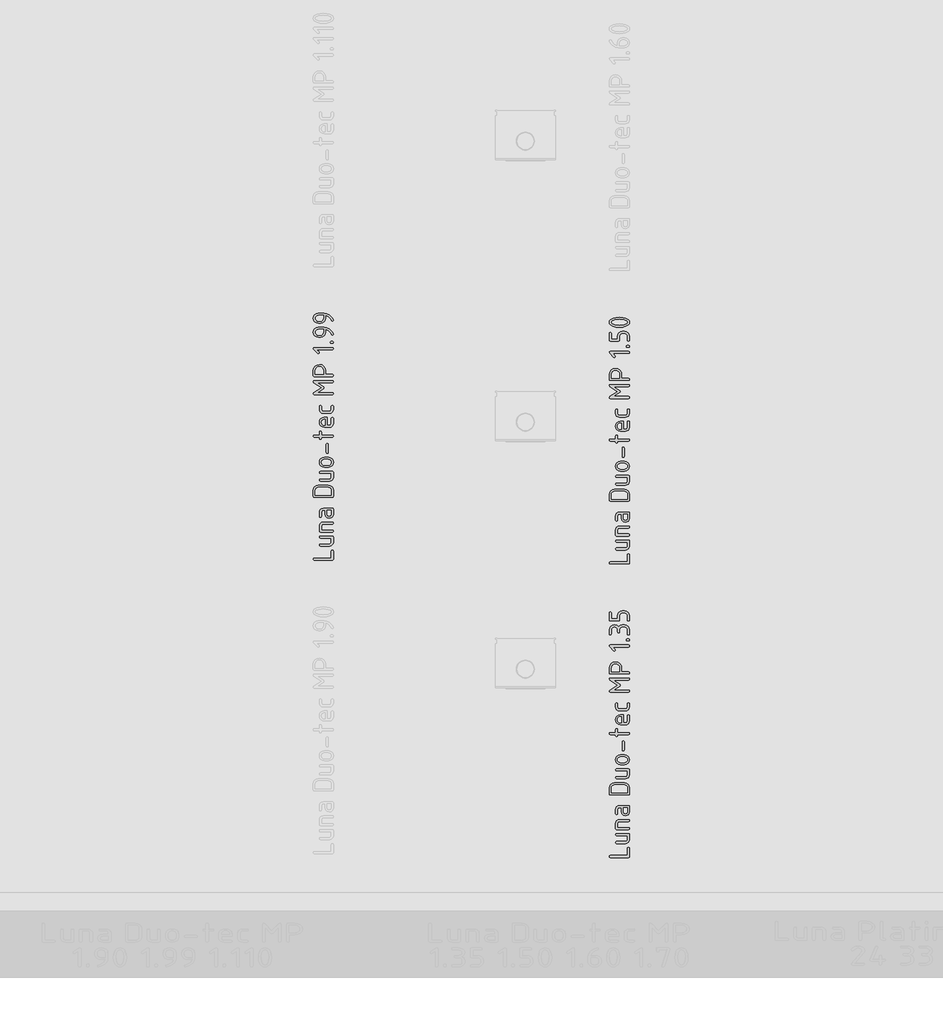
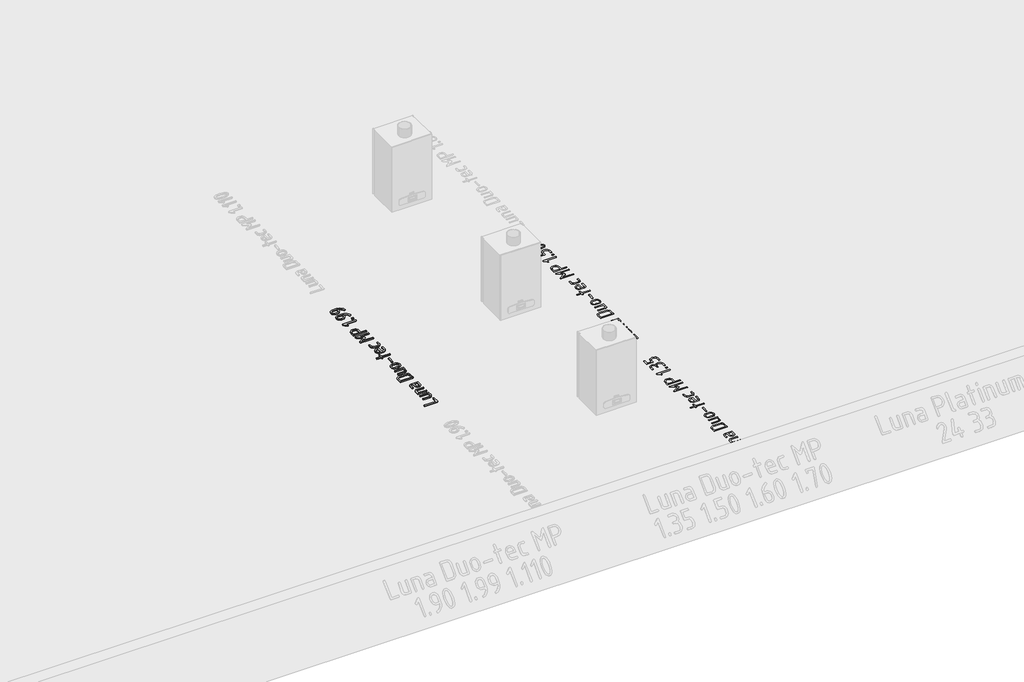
# One storey, part 18 of 37: 3 proxies.
"""IFC4 building model written with IfcOpenShell, lengths in millimetres."""

from ifc_helpers import new_model, si_unit, frame, origin, origin_with_axes, place, context, project, spatial, polyline, outline, extrude, element, save

model = new_model("IFC4")

# Units and contexts
model_context = context("Model", 3, world=origin())
ifc_project = project(units=[si_unit("LENGTHUNIT", "METRE", prefix="MILLI")], contexts=[model_context])

# Site, building, storey
site = spatial("IfcSite", under=ifc_project)
building = spatial("IfcBuilding", under=site)
storey = spatial("IfcBuildingStorey", under=building, Name="01_Стартовый вид_Площадка", Elevation=0.0)

# Proxies
placement = place(None, origin())
element("IfcBuildingElementProxy", 1, Name="150 мм", ObjectType="150 мм", at=placement, inside=storey, context=model_context, shape_type="SweptSolid", body=[
    extrude(outline(polyline([(10289.4415309, -4382.7746519), (10283.7783913, -4380.856975), (10281.8906781, -4375.1039443), (10283.7684034, -4369.3509136), (10289.4015793, -4367.4332367), (10417.4065123, -4367.4332367), (10417.4065123, -4314.9368316), (10419.3241892, -4309.3036557), (10425.0772199, -4307.4259304), (10430.8302506, -4309.3036557), (10432.7479275, -4314.9368316), (10432.7479275, -4375.1039443), (10430.8602143, -4380.856975), (10425.1970747, -4382.7746519), (10289.4415309, -4382.7746519)])), frame((0.0, 0.0, -10.0), z_axis=(0.0, 0.0, 1.0), x_axis=(1.0, 0.0, 0.0)), (0.0, 0.0, 1.0), 10.0),
    extrude(outline(polyline([(10335.3858733, -4203.7914746), (10425.2769779, -4203.7914746), (10430.8801901, -4205.6492241), (10432.7479275, -4211.2224726), (10432.7479275, -4248.2975593), (10430.5805531, -4259.7936328), (10424.0784299, -4269.3520536), (10414.4201301, -4275.7942495), (10402.784226, -4277.9416481), (10335.3858733, -4277.9416481), (10329.7826611, -4276.0239712), (10327.9149237, -4270.2709405), (10329.7826611, -4264.5179098), (10335.3858733, -4262.6002329), (10402.5045648, -4262.6002329), (10412.9918603, -4258.3254115), (10417.4065123, -4248.0978013), (10417.4065123, -4219.1328898), (10335.3858733, -4219.1328898), (10329.7826611, -4217.2152129), (10327.9149237, -4211.4621822), (10329.7826611, -4205.7091515), (10335.3858733, -4203.7914746)])), frame((0.0, 0.0, -10.0), z_axis=(0.0, 0.0, 1.0), x_axis=(1.0, 0.0, 0.0)), (0.0, 0.0, 1.0), 10.0),
    extrude(outline(polyline([(10425.2769779, -4173.1086442), (10335.3858733, -4173.1086442), (10329.7826611, -4171.2508947), (10327.9149237, -4165.6776462), (10327.9149237, -4128.6025595), (10330.0822981, -4117.106486), (10336.5844213, -4107.5480652), (10346.2427211, -4101.1058694), (10357.8786252, -4098.9584708), (10425.2769779, -4098.9584708), (10430.8801901, -4100.8761477), (10432.7479275, -4106.6291784), (10430.8801901, -4112.3822091), (10425.2769779, -4114.299886), (10358.1582865, -4114.299886), (10347.5511361, -4118.4748284), (10343.2563389, -4128.8023175), (10343.2563389, -4157.767229), (10425.2769779, -4157.767229), (10430.8801901, -4159.6849059), (10432.7479275, -4165.4379366), (10430.8801901, -4171.1909673), (10425.2769779, -4173.1086442)])), frame((0.0, 0.0, -10.0), z_axis=(0.0, 0.0, 1.0), x_axis=(1.0, 0.0, 0.0)), (0.0, 0.0, 1.0), 10.0),
    extrude(outline(polyline([(10432.7479275, -4039.4705353), (10430.5256197, -4051.0864636), (10423.8586961, -4060.7647392), (10413.9656806, -4067.2968261), (10402.0650971, -4069.4741884), (10386.6038271, -4065.4790282), (10375.1876568, -4054.7220594), (10371.3822667, -4039.4705353), (10371.3822667, -4009.4668821), (10357.3193028, -4009.4668821), (10347.3114265, -4013.7816551), (10343.2563389, -4024.4487329), (10343.2563389, -4054.4523861), (10341.338662, -4060.0855619), (10335.5856313, -4061.9632872), (10329.8326006, -4060.0855619), (10327.9149237, -4054.4523861), (10327.9149237, -4024.4487329), (10330.0822981, -4012.7678832), (10336.5844213, -4002.9747468), (10346.2427211, -3996.3377869), (10357.8786252, -3994.1254669), (10425.2769779, -3994.1254669), (10430.8801901, -3996.0431438), (10432.7479275, -4001.7961745), (10432.7479275, -4039.4705353)]), holes=[polyline([(10386.7236819, -4009.4668821), (10386.7236819, -4039.4705353), (10391.1982614, -4050.0776856), (10402.0650971, -4054.4523861), (10412.8720055, -4050.0177582), (10417.4065123, -4039.4705353), (10417.4065123, -4009.4668821), (10386.7236819, -4009.4668821)])]), frame((0.0, 0.0, -10.0), z_axis=(0.0, 0.0, 1.0), x_axis=(1.0, 0.0, 0.0)), (0.0, 0.0, 1.0), 10.0),
    extrude(outline(polyline([(10289.4415309, -3912.3045859), (10283.7783913, -3910.4368485), (10281.8906781, -3904.8336363), (10281.8906781, -3860.087842), (10284.6173749, -3845.6153741), (10292.7974655, -3833.5999298), (10304.9527404, -3825.5097304), (10319.6049905, -3822.8129972), (10395.0336152, -3822.8129972), (10409.5360467, -3825.5396941), (10421.7212854, -3833.7197846), (10429.991267, -3845.7651926), (10432.7479275, -3860.087842), (10432.7479275, -3904.8336363), (10430.8602143, -3910.4368485), (10425.1970747, -3912.3045859), (10289.4415309, -3912.3045859)]), holes=[polyline([(10297.2320933, -3896.9631707), (10417.4065123, -3896.9631707), (10417.4065123, -3860.2076968), (10415.7585087, -3851.7329632), (10410.814498, -3844.6065961), (10403.5333185, -3839.7674583), (10394.8738088, -3838.1544124), (10319.7647969, -3838.1544124), (10311.1052871, -3839.7674583), (10303.8241076, -3844.6065961), (10298.8800969, -3851.7329632), (10297.2320933, -3860.2076968), (10297.2320933, -3896.9631707)])]), frame((0.0, 0.0, -10.0), z_axis=(0.0, 0.0, 1.0), x_axis=(1.0, 0.0, 0.0)), (0.0, 0.0, 1.0), 10.0),
    extrude(outline(polyline([(10335.3858733, -3717.9799934), (10425.2769779, -3717.9799934), (10430.8801901, -3719.8377429), (10432.7479275, -3725.4109913), (10432.7479275, -3762.4860781), (10430.5805531, -3773.9821516), (10424.0784299, -3783.5405724), (10414.4201301, -3789.9827682), (10402.784226, -3792.1301668), (10335.3858733, -3792.1301668), (10329.7826611, -3790.2124899), (10327.9149237, -3784.4594592), (10329.7826611, -3778.7064285), (10335.3858733, -3776.7887516), (10402.5045648, -3776.7887516), (10412.9918603, -3772.5139302), (10417.4065123, -3762.2863201), (10417.4065123, -3733.3214086), (10335.3858733, -3733.3214086), (10329.7826611, -3731.4037317), (10327.9149237, -3725.650701), (10329.7826611, -3719.8976703), (10335.3858733, -3717.9799934)])), frame((0.0, 0.0, -10.0), z_axis=(0.0, 0.0, 1.0), x_axis=(1.0, 0.0, 0.0)), (0.0, 0.0, 1.0), 10.0),
    extrude(outline(polyline([(10395.3132764, -3687.297163), (10365.3495748, -3687.297163), (10350.9570102, -3684.585448), (10338.8616627, -3676.450303), (10330.6516084, -3664.4698163), (10327.9149237, -3650.2220762), (10330.6216447, -3635.8245176), (10338.7418078, -3623.8739947), (10350.8071917, -3615.8287408), (10365.3495748, -3613.1469895), (10395.3132764, -3613.1469895), (10409.705841, -3615.8587045), (10421.8011886, -3623.9938495), (10430.0112428, -3635.9743362), (10432.7479275, -3650.2220762), (10430.0112428, -3664.4698163), (10421.8011886, -3676.450303), (10409.705841, -3684.585448), (10395.3132764, -3687.297163)]), holes=[polyline([(10394.8738088, -3628.4884047), (10364.8701556, -3628.4884047), (10356.2406096, -3630.0814748), (10348.969418, -3634.8606852), (10344.0254072, -3641.8871733), (10342.3774036, -3650.2220762), (10344.0254072, -3658.5569792), (10348.969418, -3665.5834672), (10356.2406096, -3670.3626776), (10364.8701556, -3671.9557478), (10394.8738088, -3671.9557478), (10403.583258, -3670.3776595), (10410.8544496, -3665.6433946), (10415.7684966, -3658.6318885), (10417.4065123, -3650.2220762), (10415.7585087, -3641.8871733), (10410.814498, -3634.8606852), (10403.5333185, -3630.0814748), (10394.8738088, -3628.4884047)])]), frame((0.0, 0.0, -10.0), z_axis=(0.0, 0.0, 1.0), x_axis=(1.0, 0.0, 0.0)), (0.0, 0.0, 1.0), 10.0),
    extrude(outline(polyline([(10394.3943895, -3515.305516), (10394.3943895, -3575.3128223), (10392.4767126, -3580.9459982), (10386.7236819, -3582.8237235), (10380.9706512, -3580.9459982), (10379.0529743, -3575.3128223), (10379.0529743, -3515.305516), (10380.9706512, -3509.6723401), (10386.7236819, -3507.7946148), (10392.4767126, -3509.6723401), (10394.3943895, -3515.305516)])), frame((0.0, 0.0, -10.0), z_axis=(0.0, 0.0, 1.0), x_axis=(1.0, 0.0, 0.0)), (0.0, 0.0, 1.0), 10.0),
    extrude(outline(polyline([(10343.2563389, -3462.2897401), (10343.2563389, -3469.8006413), (10341.338662, -3475.4338172), (10335.5856313, -3477.3115425), (10329.8326006, -3475.4338172), (10327.9149237, -3469.8006413), (10327.9149237, -3462.2897401), (10289.5613857, -3462.2897401), (10283.808355, -3460.3720632), (10281.8906781, -3454.6190325), (10283.808355, -3448.8660018), (10289.5613857, -3446.9483249), (10327.9149237, -3446.9483249), (10327.9149237, -3424.4156213), (10329.8326006, -3418.8124091), (10335.5856313, -3416.9446717), (10341.338662, -3418.8124091), (10343.2563389, -3424.4156213), (10343.2563389, -3446.9483249), (10425.2769779, -3446.9483249), (10430.8801901, -3448.8660018), (10432.7479275, -3454.6190325), (10430.8801901, -3460.3720632), (10425.2769779, -3462.2897401), (10343.2563389, -3462.2897401)])), frame((0.0, 0.0, -10.0), z_axis=(0.0, 0.0, 1.0), x_axis=(1.0, 0.0, 0.0)), (0.0, 0.0, 1.0), 10.0),
    extrude(outline(polyline([(10386.7236819, -3372.7981514), (10402.0650971, -3372.7981514), (10412.8720055, -3368.3635236), (10417.4065123, -3357.8163006), (10417.4065123, -3320.3017463), (10419.3241892, -3314.6685704), (10425.0772199, -3312.7908451), (10430.8302506, -3314.6685704), (10432.7479275, -3320.3017463), (10432.7479275, -3357.8163006), (10430.5805531, -3369.4721805), (10424.0784299, -3379.270311), (10414.4201301, -3385.9222527), (10402.784226, -3388.1395666), (10365.3495748, -3388.1395666), (10350.9570102, -3385.3579363), (10338.8616627, -3377.0130454), (10330.6516084, -3364.7728734), (10327.9149237, -3350.3053994), (10330.5717052, -3335.7280586), (10338.5420498, -3323.6377051), (10350.3876999, -3315.5025601), (10364.6703976, -3312.7908451), (10386.7236819, -3312.7908451), (10386.7236819, -3372.7981514)]), holes=[polyline([(10341.3786136, -3350.3053994), (10343.0266172, -3358.9349455), (10347.9706279, -3366.2061371), (10355.2418195, -3371.1501478), (10363.8713656, -3372.7981514), (10371.3822667, -3372.7981514), (10371.3822667, -3327.8126475), (10363.8713656, -3327.8126475), (10355.2418195, -3329.4606511), (10347.9706279, -3334.4046618), (10343.0266172, -3341.6758534), (10341.3786136, -3350.3053994)])]), frame((0.0, 0.0, -10.0), z_axis=(0.0, 0.0, 1.0), x_axis=(1.0, 0.0, 0.0)), (0.0, 0.0, 1.0), 10.0),
    extrude(outline(polyline([(10358.0783833, -3267.9651476), (10402.584468, -3267.9651476), (10413.0318119, -3263.5305197), (10417.4065123, -3252.9832968), (10417.4065123, -3230.4505932), (10419.3241892, -3224.847381), (10425.0772199, -3222.9796436), (10430.8302506, -3224.847381), (10432.7479275, -3230.4505932), (10432.7479275, -3252.9832968), (10430.5805531, -3264.6391767), (10424.0784299, -3274.4373071), (10414.4201301, -3281.0892489), (10402.784226, -3283.3065628), (10357.8786252, -3283.3065628), (10346.2427211, -3281.0892489), (10336.5844213, -3274.4373071), (10330.0822981, -3264.6391767), (10327.9149237, -3252.9832968), (10327.9149237, -3230.4505932), (10329.8326006, -3224.847381), (10335.5856313, -3222.9796436), (10341.338662, -3224.847381), (10343.2563389, -3230.4505932), (10343.2563389, -3252.9832968), (10347.5910877, -3263.5904471), (10358.0783833, -3267.9651476)])), frame((0.0, 0.0, -10.0), z_axis=(0.0, 0.0, 1.0), x_axis=(1.0, 0.0, 0.0)), (0.0, 0.0, 1.0), 10.0),
    extrude(outline(polyline([(10281.8906781, -3046.1538528), (10283.7783913, -3039.9214029), (10289.4415309, -3037.8439196), (10425.1970747, -3037.8439196), (10430.8602143, -3039.7615965), (10432.7479275, -3045.5146272), (10430.8602143, -3051.2676579), (10425.1970747, -3053.1853348), (10314.2514758, -3053.1853348), (10360.0759634, -3083.388746), (10364.5904944, -3090.2604215), (10360.0759634, -3097.2120003), (10314.2514758, -3127.3355083), (10425.1970747, -3127.3355083), (10430.8602143, -3129.2531852), (10432.7479275, -3135.0062159), (10430.8602143, -3140.7592466), (10425.1970747, -3142.6769235), (10289.4415309, -3142.6769235), (10283.7783913, -3140.6393918), (10281.8906781, -3134.5267966), (10285.6461287, -3127.3355083), (10343.6159033, -3090.3802763), (10285.2066611, -3053.1853348), (10281.8906781, -3046.1538528)])), frame((0.0, 0.0, -10.0), z_axis=(0.0, 0.0, 1.0), x_axis=(1.0, 0.0, 0.0)), (0.0, 0.0, 1.0), 10.0),
    extrude(outline(polyline([(10281.8906781, -2999.6901396), (10281.8906781, -2962.4152949), (10285.2466127, -2945.1611967), (10295.3144164, -2930.7136986), (10310.1764124, -2920.9305501), (10327.9149237, -2917.6695006), (10346.452467, -2920.7607558), (10361.1546566, -2930.0345214), (10370.7430411, -2944.2522978), (10373.9391693, -2962.1755853), (10373.9391693, -2991.819674), (10425.3968328, -2991.819674), (10430.9101538, -2993.7373509), (10432.7479275, -2999.4903816), (10430.8602143, -3005.2434123), (10425.1970747, -3007.1610892), (10289.4415309, -3007.1610892), (10283.7783913, -3005.2933518), (10281.8906781, -2999.6901396)]), holes=[polyline([(10297.2320933, -2991.819674), (10358.5977541, -2991.819674), (10358.5977541, -2962.4152949), (10356.3754462, -2951.0240943), (10349.7085226, -2941.5405828), (10339.8155072, -2935.1433325), (10327.9149237, -2933.0109158), (10316.0143402, -2935.1433325), (10306.1213247, -2941.5405828), (10299.4544012, -2951.0240943), (10297.2320933, -2962.4152949), (10297.2320933, -2991.819674)])]), frame((0.0, 0.0, -10.0), z_axis=(0.0, 0.0, 1.0), x_axis=(1.0, 0.0, 0.0)), (0.0, 0.0, 1.0), 10.0),
    extrude(outline(polyline([(10307.6195098, -2805.1657891), (10324.9185535, -2822.4248812), (10327.07594, -2827.6585411), (10325.1982147, -2833.291717), (10319.5650388, -2835.1694423), (10314.331379, -2832.9721042), (10284.8470966, -2803.6476282), (10281.8906781, -2797.4950815), (10283.7783913, -2791.7420508), (10289.4415309, -2789.8243739), (10425.1970747, -2789.8243739), (10430.8602143, -2791.7420508), (10432.7479275, -2797.4950815), (10430.8602143, -2803.2481122), (10425.1970747, -2805.1657891), (10307.6195098, -2805.1657891)])), frame((0.0, 0.0, -10.0), z_axis=(0.0, 0.0, 1.0), x_axis=(1.0, 0.0, 0.0)), (0.0, 0.0, 1.0), 10.0),
    extrude(outline(polyline([(10417.4065123, -2759.1415435), (10411.6534816, -2757.2238666), (10409.7358047, -2751.4708359), (10411.6534816, -2745.7178052), (10417.4065123, -2743.8001283), (10425.0772199, -2743.8001283), (10430.8302506, -2745.7178052), (10432.7479275, -2751.4708359), (10430.8302506, -2757.2238666), (10425.0772199, -2759.1415435), (10417.4065123, -2759.1415435)])), frame((0.0, 0.0, -10.0), z_axis=(0.0, 0.0, 1.0), x_axis=(1.0, 0.0, 0.0)), (0.0, 0.0, 1.0), 10.0),
    extrude(outline(polyline([(10358.5977541, -2676.8012916), (10358.5977541, -2691.7831424), (10356.6800772, -2697.4163183), (10350.9270465, -2699.2940436), (10345.1740158, -2697.4163183), (10343.2563389, -2691.7831424), (10343.2563389, -2676.8012916), (10341.5833655, -2668.0968363), (10336.5644455, -2660.8406266), (10329.1384415, -2655.9415614), (10320.2442161, -2654.3085397), (10311.3999302, -2655.9565433), (10303.9639382, -2660.900554), (10298.9150545, -2668.1717456), (10297.2320933, -2676.8012916), (10297.2320933, -2706.8049448), (10295.3144164, -2712.4381207), (10289.5613857, -2714.315846), (10283.808355, -2712.4381207), (10281.8906781, -2706.8049448), (10281.8906781, -2676.8012916), (10284.707266, -2662.3338177), (10293.1570299, -2650.0936456), (10305.5620023, -2641.7487548), (10320.2442161, -2638.9671245), (10337.4433808, -2642.7225751), (10350.9270465, -2653.9889269), (10364.0012083, -2642.7225751), (10380.69099, -2638.9671245), (10395.552986, -2638.9671245), (10409.8656474, -2641.7637366), (10421.8810918, -2650.1535731), (10430.0312186, -2662.408727), (10432.7479275, -2676.8012916), (10432.7479275, -2706.8049448), (10430.8302506, -2712.4381207), (10425.0772199, -2714.315846), (10419.3241892, -2712.4381207), (10417.4065123, -2706.8049448), (10417.4065123, -2676.8012916), (10415.8034543, -2668.0968363), (10410.9942802, -2660.8406266), (10403.8779011, -2655.9415614), (10395.353228, -2654.3085397), (10380.6510384, -2654.3085397), (10372.1763048, -2655.9565433), (10365.0499378, -2660.900554), (10360.2108, -2668.1717456), (10358.5977541, -2676.8012916)])), frame((0.0, 0.0, -10.0), z_axis=(0.0, 0.0, 1.0), x_axis=(1.0, 0.0, 0.0)), (0.0, 0.0, 1.0), 10.0),
    extrude(outline(polyline([(10350.9270465, -2608.2842941), (10289.5613857, -2608.2842941), (10283.808355, -2606.4465204), (10281.8906781, -2600.9331993), (10281.8906781, -2549.4755358), (10283.808355, -2543.8423599), (10289.5613857, -2541.9646346), (10295.3144164, -2543.8423599), (10297.2320933, -2549.4755358), (10297.2320933, -2592.9428789), (10343.2563389, -2592.9428789), (10343.2563389, -2570.8895945), (10345.9980176, -2556.7567153), (10354.2230537, -2544.8811016), (10366.2834435, -2536.8208659), (10380.5311836, -2534.1341206), (10395.4730828, -2534.1341206), (10409.7957321, -2536.8608175), (10421.8411402, -2545.040908), (10430.0212307, -2557.0363765), (10432.7479275, -2571.2092073), (10432.7479275, -2600.8532961), (10430.8302506, -2606.4265446), (10425.0772199, -2608.2842941), (10419.3241892, -2606.4465204), (10417.4065123, -2600.9331993), (10417.4065123, -2571.5288202), (10415.8034543, -2563.0041471), (10410.9942802, -2555.887768), (10403.8779011, -2551.0785939), (10395.353228, -2549.4755358), (10380.6510384, -2549.4755358), (10372.1763048, -2551.0885818), (10365.0499378, -2555.9277196), (10360.2108, -2563.0540866), (10358.5977541, -2571.5288202), (10358.5977541, -2600.9331993), (10356.6800772, -2606.4465204), (10350.9270465, -2608.2842941)])), frame((0.0, 0.0, -10.0), z_axis=(0.0, 0.0, 1.0), x_axis=(1.0, 0.0, 0.0)), (0.0, 0.0, 1.0), 10.0),
])
element("IfcBuildingElementProxy", 2, Name="150 мм", ObjectType="150 мм", at=placement, inside=storey, context=model_context, shape_type="SweptSolid", body=[
    extrude(outline(polyline([(10289.4415309, -2182.7746519), (10283.7783913, -2180.856975), (10281.8906781, -2175.1039443), (10283.7684034, -2169.3509136), (10289.4015793, -2167.4332367), (10417.4065123, -2167.4332367), (10417.4065123, -2114.9368316), (10419.3241892, -2109.3036557), (10425.0772199, -2107.4259304), (10430.8302506, -2109.3036557), (10432.7479275, -2114.9368316), (10432.7479275, -2175.1039443), (10430.8602143, -2180.856975), (10425.1970747, -2182.7746519), (10289.4415309, -2182.7746519)])), frame((0.0, 0.0, -10.0), z_axis=(0.0, 0.0, 1.0), x_axis=(1.0, 0.0, 0.0)), (0.0, 0.0, 1.0), 10.0),
    extrude(outline(polyline([(10335.3858733, -2003.7914746), (10425.2769779, -2003.7914746), (10430.8801901, -2005.6492241), (10432.7479275, -2011.2224726), (10432.7479275, -2048.2975593), (10430.5805531, -2059.7936328), (10424.0784299, -2069.3520536), (10414.4201301, -2075.7942495), (10402.784226, -2077.9416481), (10335.3858733, -2077.9416481), (10329.7826611, -2076.0239712), (10327.9149237, -2070.2709405), (10329.7826611, -2064.5179098), (10335.3858733, -2062.6002329), (10402.5045648, -2062.6002329), (10412.9918603, -2058.3254115), (10417.4065123, -2048.0978013), (10417.4065123, -2019.1328898), (10335.3858733, -2019.1328898), (10329.7826611, -2017.2152129), (10327.9149237, -2011.4621822), (10329.7826611, -2005.7091515), (10335.3858733, -2003.7914746)])), frame((0.0, 0.0, -10.0), z_axis=(0.0, 0.0, 1.0), x_axis=(1.0, 0.0, 0.0)), (0.0, 0.0, 1.0), 10.0),
    extrude(outline(polyline([(10425.2769779, -1973.1086442), (10335.3858733, -1973.1086442), (10329.7826611, -1971.2508947), (10327.9149237, -1965.6776462), (10327.9149237, -1928.6025595), (10330.0822981, -1917.106486), (10336.5844213, -1907.5480652), (10346.2427211, -1901.1058694), (10357.8786252, -1898.9584708), (10425.2769779, -1898.9584708), (10430.8801901, -1900.8761477), (10432.7479275, -1906.6291784), (10430.8801901, -1912.3822091), (10425.2769779, -1914.299886), (10358.1582865, -1914.299886), (10347.5511361, -1918.4748284), (10343.2563389, -1928.8023175), (10343.2563389, -1957.767229), (10425.2769779, -1957.767229), (10430.8801901, -1959.6849059), (10432.7479275, -1965.4379366), (10430.8801901, -1971.1909673), (10425.2769779, -1973.1086442)])), frame((0.0, 0.0, -10.0), z_axis=(0.0, 0.0, 1.0), x_axis=(1.0, 0.0, 0.0)), (0.0, 0.0, 1.0), 10.0),
    extrude(outline(polyline([(10432.7479275, -1839.4705353), (10430.5256197, -1851.0864636), (10423.8586961, -1860.7647392), (10413.9656806, -1867.2968261), (10402.0650971, -1869.4741884), (10386.6038271, -1865.4790282), (10375.1876568, -1854.7220594), (10371.3822667, -1839.4705353), (10371.3822667, -1809.4668821), (10357.3193028, -1809.4668821), (10347.3114265, -1813.7816551), (10343.2563389, -1824.4487329), (10343.2563389, -1854.4523861), (10341.338662, -1860.0855619), (10335.5856313, -1861.9632872), (10329.8326006, -1860.0855619), (10327.9149237, -1854.4523861), (10327.9149237, -1824.4487329), (10330.0822981, -1812.7678832), (10336.5844213, -1802.9747468), (10346.2427211, -1796.3377869), (10357.8786252, -1794.1254669), (10425.2769779, -1794.1254669), (10430.8801901, -1796.0431438), (10432.7479275, -1801.7961745), (10432.7479275, -1839.4705353)]), holes=[polyline([(10386.7236819, -1809.4668821), (10386.7236819, -1839.4705353), (10391.1982614, -1850.0776856), (10402.0650971, -1854.4523861), (10412.8720055, -1850.0177582), (10417.4065123, -1839.4705353), (10417.4065123, -1809.4668821), (10386.7236819, -1809.4668821)])]), frame((0.0, 0.0, -10.0), z_axis=(0.0, 0.0, 1.0), x_axis=(1.0, 0.0, 0.0)), (0.0, 0.0, 1.0), 10.0),
    extrude(outline(polyline([(10289.4415309, -1712.3045859), (10283.7783913, -1710.4368485), (10281.8906781, -1704.8336363), (10281.8906781, -1660.087842), (10284.6173749, -1645.6153741), (10292.7974655, -1633.5999298), (10304.9527404, -1625.5097304), (10319.6049905, -1622.8129972), (10395.0336152, -1622.8129972), (10409.5360467, -1625.5396941), (10421.7212854, -1633.7197846), (10429.991267, -1645.7651926), (10432.7479275, -1660.087842), (10432.7479275, -1704.8336363), (10430.8602143, -1710.4368485), (10425.1970747, -1712.3045859), (10289.4415309, -1712.3045859)]), holes=[polyline([(10297.2320933, -1696.9631707), (10417.4065123, -1696.9631707), (10417.4065123, -1660.2076968), (10415.7585087, -1651.7329632), (10410.814498, -1644.6065961), (10403.5333185, -1639.7674583), (10394.8738088, -1638.1544124), (10319.7647969, -1638.1544124), (10311.1052871, -1639.7674583), (10303.8241076, -1644.6065961), (10298.8800969, -1651.7329632), (10297.2320933, -1660.2076968), (10297.2320933, -1696.9631707)])]), frame((0.0, 0.0, -10.0), z_axis=(0.0, 0.0, 1.0), x_axis=(1.0, 0.0, 0.0)), (0.0, 0.0, 1.0), 10.0),
    extrude(outline(polyline([(10335.3858733, -1517.9799934), (10425.2769779, -1517.9799934), (10430.8801901, -1519.8377429), (10432.7479275, -1525.4109913), (10432.7479275, -1562.4860781), (10430.5805531, -1573.9821516), (10424.0784299, -1583.5405724), (10414.4201301, -1589.9827682), (10402.784226, -1592.1301668), (10335.3858733, -1592.1301668), (10329.7826611, -1590.2124899), (10327.9149237, -1584.4594592), (10329.7826611, -1578.7064285), (10335.3858733, -1576.7887516), (10402.5045648, -1576.7887516), (10412.9918603, -1572.5139302), (10417.4065123, -1562.2863201), (10417.4065123, -1533.3214086), (10335.3858733, -1533.3214086), (10329.7826611, -1531.4037317), (10327.9149237, -1525.650701), (10329.7826611, -1519.8976703), (10335.3858733, -1517.9799934)])), frame((0.0, 0.0, -10.0), z_axis=(0.0, 0.0, 1.0), x_axis=(1.0, 0.0, 0.0)), (0.0, 0.0, 1.0), 10.0),
    extrude(outline(polyline([(10395.3132764, -1487.297163), (10365.3495748, -1487.297163), (10350.9570102, -1484.585448), (10338.8616627, -1476.450303), (10330.6516084, -1464.4698163), (10327.9149237, -1450.2220762), (10330.6216447, -1435.8245176), (10338.7418078, -1423.8739947), (10350.8071917, -1415.8287408), (10365.3495748, -1413.1469895), (10395.3132764, -1413.1469895), (10409.705841, -1415.8587045), (10421.8011886, -1423.9938495), (10430.0112428, -1435.9743362), (10432.7479275, -1450.2220762), (10430.0112428, -1464.4698163), (10421.8011886, -1476.450303), (10409.705841, -1484.585448), (10395.3132764, -1487.297163)]), holes=[polyline([(10394.8738088, -1428.4884047), (10364.8701556, -1428.4884047), (10356.2406096, -1430.0814748), (10348.969418, -1434.8606852), (10344.0254072, -1441.8871733), (10342.3774036, -1450.2220762), (10344.0254072, -1458.5569792), (10348.969418, -1465.5834672), (10356.2406096, -1470.3626776), (10364.8701556, -1471.9557478), (10394.8738088, -1471.9557478), (10403.583258, -1470.3776595), (10410.8544496, -1465.6433946), (10415.7684966, -1458.6318885), (10417.4065123, -1450.2220762), (10415.7585087, -1441.8871733), (10410.814498, -1434.8606852), (10403.5333185, -1430.0814748), (10394.8738088, -1428.4884047)])]), frame((0.0, 0.0, -10.0), z_axis=(0.0, 0.0, 1.0), x_axis=(1.0, 0.0, 0.0)), (0.0, 0.0, 1.0), 10.0),
    extrude(outline(polyline([(10394.3943895, -1315.305516), (10394.3943895, -1375.3128223), (10392.4767126, -1380.9459982), (10386.7236819, -1382.8237235), (10380.9706512, -1380.9459982), (10379.0529743, -1375.3128223), (10379.0529743, -1315.305516), (10380.9706512, -1309.6723401), (10386.7236819, -1307.7946148), (10392.4767126, -1309.6723401), (10394.3943895, -1315.305516)])), frame((0.0, 0.0, -10.0), z_axis=(0.0, 0.0, 1.0), x_axis=(1.0, 0.0, 0.0)), (0.0, 0.0, 1.0), 10.0),
    extrude(outline(polyline([(10343.2563389, -1262.2897401), (10343.2563389, -1269.8006413), (10341.338662, -1275.4338172), (10335.5856313, -1277.3115425), (10329.8326006, -1275.4338172), (10327.9149237, -1269.8006413), (10327.9149237, -1262.2897401), (10289.5613857, -1262.2897401), (10283.808355, -1260.3720632), (10281.8906781, -1254.6190325), (10283.808355, -1248.8660018), (10289.5613857, -1246.9483249), (10327.9149237, -1246.9483249), (10327.9149237, -1224.4156213), (10329.8326006, -1218.8124091), (10335.5856313, -1216.9446717), (10341.338662, -1218.8124091), (10343.2563389, -1224.4156213), (10343.2563389, -1246.9483249), (10425.2769779, -1246.9483249), (10430.8801901, -1248.8660018), (10432.7479275, -1254.6190325), (10430.8801901, -1260.3720632), (10425.2769779, -1262.2897401), (10343.2563389, -1262.2897401)])), frame((0.0, 0.0, -10.0), z_axis=(0.0, 0.0, 1.0), x_axis=(1.0, 0.0, 0.0)), (0.0, 0.0, 1.0), 10.0),
    extrude(outline(polyline([(10386.7236819, -1172.7981514), (10402.0650971, -1172.7981514), (10412.8720055, -1168.3635236), (10417.4065123, -1157.8163006), (10417.4065123, -1120.3017463), (10419.3241892, -1114.6685704), (10425.0772199, -1112.7908451), (10430.8302506, -1114.6685704), (10432.7479275, -1120.3017463), (10432.7479275, -1157.8163006), (10430.5805531, -1169.4721805), (10424.0784299, -1179.270311), (10414.4201301, -1185.9222527), (10402.784226, -1188.1395666), (10365.3495748, -1188.1395666), (10350.9570102, -1185.3579363), (10338.8616627, -1177.0130454), (10330.6516084, -1164.7728734), (10327.9149237, -1150.3053994), (10330.5717052, -1135.7280586), (10338.5420498, -1123.6377051), (10350.3876999, -1115.5025601), (10364.6703976, -1112.7908451), (10386.7236819, -1112.7908451), (10386.7236819, -1172.7981514)]), holes=[polyline([(10341.3786136, -1150.3053994), (10343.0266172, -1158.9349455), (10347.9706279, -1166.2061371), (10355.2418195, -1171.1501478), (10363.8713656, -1172.7981514), (10371.3822667, -1172.7981514), (10371.3822667, -1127.8126475), (10363.8713656, -1127.8126475), (10355.2418195, -1129.4606511), (10347.9706279, -1134.4046618), (10343.0266172, -1141.6758534), (10341.3786136, -1150.3053994)])]), frame((0.0, 0.0, -10.0), z_axis=(0.0, 0.0, 1.0), x_axis=(1.0, 0.0, 0.0)), (0.0, 0.0, 1.0), 10.0),
    extrude(outline(polyline([(10358.0783833, -1067.9651476), (10402.584468, -1067.9651476), (10413.0318119, -1063.5305197), (10417.4065123, -1052.9832968), (10417.4065123, -1030.4505932), (10419.3241892, -1024.847381), (10425.0772199, -1022.9796436), (10430.8302506, -1024.847381), (10432.7479275, -1030.4505932), (10432.7479275, -1052.9832968), (10430.5805531, -1064.6391767), (10424.0784299, -1074.4373071), (10414.4201301, -1081.0892489), (10402.784226, -1083.3065628), (10357.8786252, -1083.3065628), (10346.2427211, -1081.0892489), (10336.5844213, -1074.4373071), (10330.0822981, -1064.6391767), (10327.9149237, -1052.9832968), (10327.9149237, -1030.4505932), (10329.8326006, -1024.847381), (10335.5856313, -1022.9796436), (10341.338662, -1024.847381), (10343.2563389, -1030.4505932), (10343.2563389, -1052.9832968), (10347.5910877, -1063.5904471), (10358.0783833, -1067.9651476)])), frame((0.0, 0.0, -10.0), z_axis=(0.0, 0.0, 1.0), x_axis=(1.0, 0.0, 0.0)), (0.0, 0.0, 1.0), 10.0),
    extrude(outline(polyline([(10281.8906781, -846.1538528), (10283.7783913, -839.9214029), (10289.4415309, -837.8439196), (10425.1970747, -837.8439196), (10430.8602143, -839.7615965), (10432.7479275, -845.5146272), (10430.8602143, -851.2676579), (10425.1970747, -853.1853348), (10314.2514758, -853.1853348), (10360.0759634, -883.388746), (10364.5904944, -890.2604215), (10360.0759634, -897.2120003), (10314.2514758, -927.3355083), (10425.1970747, -927.3355083), (10430.8602143, -929.2531852), (10432.7479275, -935.0062159), (10430.8602143, -940.7592466), (10425.1970747, -942.6769235), (10289.4415309, -942.6769235), (10283.7783913, -940.6393918), (10281.8906781, -934.5267966), (10285.6461287, -927.3355083), (10343.6159033, -890.3802763), (10285.2066611, -853.1853348), (10281.8906781, -846.1538528)])), frame((0.0, 0.0, -10.0), z_axis=(0.0, 0.0, 1.0), x_axis=(1.0, 0.0, 0.0)), (0.0, 0.0, 1.0), 10.0),
    extrude(outline(polyline([(10281.8906781, -799.6901396), (10281.8906781, -762.4152949), (10285.2466127, -745.1611967), (10295.3144164, -730.7136986), (10310.1764124, -720.9305501), (10327.9149237, -717.6695006), (10346.452467, -720.7607558), (10361.1546566, -730.0345214), (10370.7430411, -744.2522978), (10373.9391693, -762.1755853), (10373.9391693, -791.819674), (10425.3968328, -791.819674), (10430.9101538, -793.7373509), (10432.7479275, -799.4903816), (10430.8602143, -805.2434123), (10425.1970747, -807.1610892), (10289.4415309, -807.1610892), (10283.7783913, -805.2933518), (10281.8906781, -799.6901396)]), holes=[polyline([(10297.2320933, -791.819674), (10358.5977541, -791.819674), (10358.5977541, -762.4152949), (10356.3754462, -751.0240943), (10349.7085226, -741.5405828), (10339.8155072, -735.1433325), (10327.9149237, -733.0109158), (10316.0143402, -735.1433325), (10306.1213247, -741.5405828), (10299.4544012, -751.0240943), (10297.2320933, -762.4152949), (10297.2320933, -791.819674)])]), frame((0.0, 0.0, -10.0), z_axis=(0.0, 0.0, 1.0), x_axis=(1.0, 0.0, 0.0)), (0.0, 0.0, 1.0), 10.0),
    extrude(outline(polyline([(10307.6195098, -605.1657891), (10324.9185535, -622.4248812), (10327.07594, -627.6585411), (10325.1982147, -633.291717), (10319.5650388, -635.1694423), (10314.331379, -632.9721042), (10284.8470966, -603.6476282), (10281.8906781, -597.4950815), (10283.7783913, -591.7420508), (10289.4415309, -589.8243739), (10425.1970747, -589.8243739), (10430.8602143, -591.7420508), (10432.7479275, -597.4950815), (10430.8602143, -603.2481122), (10425.1970747, -605.1657891), (10307.6195098, -605.1657891)])), frame((0.0, 0.0, -10.0), z_axis=(0.0, 0.0, 1.0), x_axis=(1.0, 0.0, 0.0)), (0.0, 0.0, 1.0), 10.0),
    extrude(outline(polyline([(10417.4065123, -559.1415435), (10411.6534816, -557.2238666), (10409.7358047, -551.4708359), (10411.6534816, -545.7178052), (10417.4065123, -543.8001283), (10425.0772199, -543.8001283), (10430.8302506, -545.7178052), (10432.7479275, -551.4708359), (10430.8302506, -557.2238666), (10425.0772199, -559.1415435), (10417.4065123, -559.1415435)])), frame((0.0, 0.0, -10.0), z_axis=(0.0, 0.0, 1.0), x_axis=(1.0, 0.0, 0.0)), (0.0, 0.0, 1.0), 10.0),
    extrude(outline(polyline([(10350.9270465, -513.1172979), (10289.5613857, -513.1172979), (10283.808355, -511.2795242), (10281.8906781, -505.7662031), (10281.8906781, -454.3085397), (10283.808355, -448.6753638), (10289.5613857, -446.7976385), (10295.3144164, -448.6753638), (10297.2320933, -454.3085397), (10297.2320933, -497.7758827), (10343.2563389, -497.7758827), (10343.2563389, -475.7225984), (10345.9980176, -461.5897191), (10354.2230537, -449.7141054), (10366.2834435, -441.6538697), (10380.5311836, -438.9671245), (10395.4730828, -438.9671245), (10409.7957321, -441.6938213), (10421.8411402, -449.8739118), (10430.0212307, -461.8693804), (10432.7479275, -476.0422112), (10432.7479275, -505.6862999), (10430.8302506, -511.2595484), (10425.0772199, -513.1172979), (10419.3241892, -511.2795242), (10417.4065123, -505.7662031), (10417.4065123, -476.361824), (10415.8034543, -467.8371509), (10410.9942802, -460.7207718), (10403.8779011, -455.9115977), (10395.353228, -454.3085397), (10380.6510384, -454.3085397), (10372.1763048, -455.9215856), (10365.0499378, -460.7607234), (10360.2108, -467.8870904), (10358.5977541, -476.361824), (10358.5977541, -505.7662031), (10356.6800772, -511.2795242), (10350.9270465, -513.1172979)])), frame((0.0, 0.0, -10.0), z_axis=(0.0, 0.0, 1.0), x_axis=(1.0, 0.0, 0.0)), (0.0, 0.0, 1.0), 10.0),
    extrude(outline(polyline([(10357.3193028, -334.1341206), (10382.4588484, -335.7621484), (10403.9428224, -340.6462318), (10425.5466513, -353.0611921), (10430.9476085, -361.4185679), (10432.7479275, -371.2092073), (10430.9550994, -380.9998468), (10425.576615, -389.3572226), (10404.0626772, -401.7721829), (10382.5487395, -406.6562663), (10357.3193028, -408.2842941), (10332.0898661, -406.6562663), (10310.5759284, -401.7721829), (10289.0619907, -389.3572226), (10283.6835062, -380.9998468), (10281.8906781, -371.2092073), (10283.6909972, -361.4185679), (10289.0919544, -353.0611921), (10310.6957832, -340.6462318), (10332.1797572, -335.7621484), (10357.3193028, -334.1341206)]), holes=[polyline([(10357.3193028, -349.4755358), (10322.161893, -353.3108896), (10303.4645432, -360.701936), (10297.2320933, -371.2092073), (10303.4945069, -381.6265876), (10322.2817478, -388.9876703), (10357.3193028, -392.9428789), (10392.4767126, -389.1075251), (10411.1740624, -381.7164787), (10417.4065123, -371.2092073), (10411.1740624, -360.701936), (10392.4767126, -353.3108896), (10357.3193028, -349.4755358)])]), frame((0.0, 0.0, -10.0), z_axis=(0.0, 0.0, 1.0), x_axis=(1.0, 0.0, 0.0)), (0.0, 0.0, 1.0), 10.0),
])
element("IfcBuildingElementProxy", 3, Name="150 мм", ObjectType="150 мм", at=placement, inside=storey, context=model_context, shape_type="SweptSolid", body=[
    extrude(outline(polyline([(8069.0233862, -2153.3272913), (8063.3602466, -2151.4096144), (8061.4725334, -2145.6565837), (8063.3502587, -2139.903553), (8068.9834346, -2137.9858761), (8196.9883677, -2137.9858761), (8196.9883677, -2085.489471), (8198.9060446, -2079.8562951), (8204.6590753, -2077.9785698), (8210.412106, -2079.8562951), (8212.3297829, -2085.489471), (8212.3297829, -2145.6565837), (8210.4420697, -2151.4096144), (8204.7789301, -2153.3272913), (8069.0233862, -2153.3272913)])), origin_with_axes(), (0.0, 0.0, 1.0), 10.0),
    extrude(outline(polyline([(8114.9677286, -1974.344114), (8204.8588333, -1974.344114), (8210.4620455, -1976.2018635), (8212.3297829, -1981.775112), (8212.3297829, -2018.8501987), (8210.1624084, -2030.3462722), (8203.6602852, -2039.904693), (8194.0019854, -2046.3468888), (8182.3660813, -2048.4942874), (8114.9677286, -2048.4942874), (8109.3645164, -2046.5766105), (8107.496779, -2040.8235798), (8109.3645164, -2035.0705491), (8114.9677286, -2033.1528722), (8182.0864201, -2033.1528722), (8192.5737156, -2028.8780508), (8196.9883677, -2018.6504407), (8196.9883677, -1989.6855292), (8114.9677286, -1989.6855292), (8109.3645164, -1987.7678523), (8107.496779, -1982.0148216), (8109.3645164, -1976.2617909), (8114.9677286, -1974.344114)])), origin_with_axes(), (0.0, 0.0, 1.0), 10.0),
    extrude(outline(polyline([(8204.8588333, -1943.6612836), (8114.9677286, -1943.6612836), (8109.3645164, -1941.8035341), (8107.496779, -1936.2302856), (8107.496779, -1899.1551989), (8109.6641534, -1887.6591254), (8116.1662767, -1878.1007046), (8125.8245765, -1871.6585087), (8137.4604806, -1869.5111101), (8204.8588333, -1869.5111101), (8210.4620455, -1871.428787), (8212.3297829, -1877.1818177), (8210.4620455, -1882.9348484), (8204.8588333, -1884.8525253), (8137.7401418, -1884.8525253), (8127.1329914, -1889.0274677), (8122.8381942, -1899.3549569), (8122.8381942, -1928.3198684), (8204.8588333, -1928.3198684), (8210.4620455, -1930.2375453), (8212.3297829, -1935.990576), (8210.4620455, -1941.7436067), (8204.8588333, -1943.6612836)])), origin_with_axes(), (0.0, 0.0, 1.0), 10.0),
    extrude(outline(polyline([(8212.3297829, -1810.0231746), (8210.107475, -1821.6391029), (8203.4405514, -1831.3173785), (8193.5475359, -1837.8494655), (8181.6469525, -1840.0268278), (8166.1856825, -1836.0316676), (8154.7695122, -1825.2746987), (8150.9641221, -1810.0231746), (8150.9641221, -1780.0195215), (8136.9011581, -1780.0195215), (8126.8932818, -1784.3342945), (8122.8381942, -1795.0013723), (8122.8381942, -1825.0050254), (8120.9205173, -1830.6382013), (8115.1674866, -1832.5159266), (8109.4144559, -1830.6382013), (8107.496779, -1825.0050254), (8107.496779, -1795.0013723), (8109.6641534, -1783.3205226), (8116.1662767, -1773.5273861), (8125.8245765, -1766.8904262), (8137.4604806, -1764.6781063), (8204.8588333, -1764.6781063), (8210.4620455, -1766.5957832), (8212.3297829, -1772.3488139), (8212.3297829, -1810.0231746)]), holes=[polyline([(8166.3055373, -1780.0195215), (8166.3055373, -1810.0231746), (8170.7801167, -1820.630325), (8181.6469525, -1825.0050254), (8192.4538608, -1820.5703976), (8196.9883677, -1810.0231746), (8196.9883677, -1780.0195215), (8166.3055373, -1780.0195215)])]), origin_with_axes(), (0.0, 0.0, 1.0), 10.0),
    extrude(outline(polyline([(8069.0233862, -1682.8572252), (8063.3602466, -1680.9894878), (8061.4725334, -1675.3862756), (8061.4725334, -1630.6404813), (8064.1992302, -1616.1680135), (8072.3793208, -1604.1525691), (8084.5345957, -1596.0623697), (8099.1868458, -1593.3656366), (8174.6154705, -1593.3656366), (8189.117902, -1596.0923334), (8201.3031407, -1604.2724239), (8209.5731223, -1616.317832), (8212.3297829, -1630.6404813), (8212.3297829, -1675.3862756), (8210.4420697, -1680.9894878), (8204.7789301, -1682.8572252), (8069.0233862, -1682.8572252)]), holes=[polyline([(8076.8139486, -1667.51581), (8196.9883677, -1667.51581), (8196.9883677, -1630.7603361), (8195.3403641, -1622.2856025), (8190.3963533, -1615.1592355), (8183.1151738, -1610.3200977), (8174.4556641, -1608.7070518), (8099.3466522, -1608.7070518), (8090.6871424, -1610.3200977), (8083.4059629, -1615.1592355), (8078.4619522, -1622.2856025), (8076.8139486, -1630.7603361), (8076.8139486, -1667.51581)])]), origin_with_axes(), (0.0, 0.0, 1.0), 10.0),
    extrude(outline(polyline([(8114.9677286, -1488.5326327), (8204.8588333, -1488.5326327), (8210.4620455, -1490.3903822), (8212.3297829, -1495.9636307), (8212.3297829, -1533.0387174), (8210.1624084, -1544.5347909), (8203.6602852, -1554.0932117), (8194.0019854, -1560.5354076), (8182.3660813, -1562.6828062), (8114.9677286, -1562.6828062), (8109.3645164, -1560.7651293), (8107.496779, -1555.0120986), (8109.3645164, -1549.2590679), (8114.9677286, -1547.341391), (8182.0864201, -1547.341391), (8192.5737156, -1543.0665696), (8196.9883677, -1532.8389594), (8196.9883677, -1503.8740479), (8114.9677286, -1503.8740479), (8109.3645164, -1501.956371), (8107.496779, -1496.2033403), (8109.3645164, -1490.4503096), (8114.9677286, -1488.5326327)])), origin_with_axes(), (0.0, 0.0, 1.0), 10.0),
    extrude(outline(polyline([(8174.8951317, -1457.8498023), (8144.9314301, -1457.8498023), (8130.5388655, -1455.1380873), (8118.443518, -1447.0029424), (8110.2334637, -1435.0224557), (8107.496779, -1420.7747156), (8110.2035, -1406.377157), (8118.3236632, -1394.426634), (8130.389047, -1386.3813802), (8144.9314301, -1383.6996289), (8174.8951317, -1383.6996289), (8189.2876964, -1386.4113439), (8201.3830439, -1394.5464888), (8209.5930981, -1406.5269755), (8212.3297829, -1420.7747156), (8209.5930981, -1435.0224557), (8201.3830439, -1447.0029424), (8189.2876964, -1455.1380873), (8174.8951317, -1457.8498023)]), holes=[polyline([(8174.4556641, -1399.0410441), (8144.4520109, -1399.0410441), (8135.8224649, -1400.6341142), (8128.5512733, -1405.4133246), (8123.6072625, -1412.4398126), (8121.959259, -1420.7747156), (8123.6072625, -1429.1096186), (8128.5512733, -1436.1361066), (8135.8224649, -1440.915317), (8144.4520109, -1442.5083871), (8174.4556641, -1442.5083871), (8183.1651133, -1440.9302989), (8190.4363049, -1436.196034), (8195.350352, -1429.1845278), (8196.9883677, -1420.7747156), (8195.3403641, -1412.4398126), (8190.3963533, -1405.4133246), (8183.1151738, -1400.6341142), (8174.4556641, -1399.0410441)])]), origin_with_axes(), (0.0, 0.0, 1.0), 10.0),
    extrude(outline(polyline([(8173.9762449, -1285.8581554), (8173.9762449, -1345.8654617), (8172.058568, -1351.4986376), (8166.3055373, -1353.3763629), (8160.5525066, -1351.4986376), (8158.6348297, -1345.8654617), (8158.6348297, -1285.8581554), (8160.5525066, -1280.2249795), (8166.3055373, -1278.3472542), (8172.058568, -1280.2249795), (8173.9762449, -1285.8581554)])), origin_with_axes(), (0.0, 0.0, 1.0), 10.0),
    extrude(outline(polyline([(8122.8381942, -1232.8423794), (8122.8381942, -1240.3532806), (8120.9205173, -1245.9864565), (8115.1674866, -1247.8641818), (8109.4144559, -1245.9864565), (8107.496779, -1240.3532806), (8107.496779, -1232.8423794), (8069.143241, -1232.8423794), (8063.3902103, -1230.9247025), (8061.4725334, -1225.1716718), (8063.3902103, -1219.4186411), (8069.143241, -1217.5009642), (8107.496779, -1217.5009642), (8107.496779, -1194.9682607), (8109.4144559, -1189.3650485), (8115.1674866, -1187.4973111), (8120.9205173, -1189.3650485), (8122.8381942, -1194.9682607), (8122.8381942, -1217.5009642), (8204.8588333, -1217.5009642), (8210.4620455, -1219.4186411), (8212.3297829, -1225.1716718), (8210.4620455, -1230.9247025), (8204.8588333, -1232.8423794), (8122.8381942, -1232.8423794)])), origin_with_axes(), (0.0, 0.0, 1.0), 10.0),
    extrude(outline(polyline([(8166.3055373, -1143.3507908), (8181.6469525, -1143.3507908), (8192.4538608, -1138.916163), (8196.9883677, -1128.36894), (8196.9883677, -1090.8543857), (8198.9060446, -1085.2212098), (8204.6590753, -1083.3434845), (8210.412106, -1085.2212098), (8212.3297829, -1090.8543857), (8212.3297829, -1128.36894), (8210.1624084, -1140.0248199), (8203.6602852, -1149.8229503), (8194.0019854, -1156.4748921), (8182.3660813, -1158.692206), (8144.9314301, -1158.692206), (8130.5388655, -1155.9105757), (8118.443518, -1147.5656848), (8110.2334637, -1135.3255127), (8107.496779, -1120.8580388), (8110.1535605, -1106.280698), (8118.1239052, -1094.1903444), (8129.9695552, -1086.0551995), (8144.2522529, -1083.3434845), (8166.3055373, -1083.3434845), (8166.3055373, -1143.3507908)]), holes=[polyline([(8120.9604689, -1120.8580388), (8122.6084725, -1129.4875849), (8127.5524832, -1136.7587764), (8134.8236748, -1141.7027872), (8143.4532209, -1143.3507908), (8150.9641221, -1143.3507908), (8150.9641221, -1098.3652868), (8143.4532209, -1098.3652868), (8134.8236748, -1100.0132904), (8127.5524832, -1104.9573012), (8122.6084725, -1112.2284928), (8120.9604689, -1120.8580388)])]), origin_with_axes(), (0.0, 0.0, 1.0), 10.0),
    extrude(outline(polyline([(8137.6602386, -1038.5177869), (8182.1663233, -1038.5177869), (8192.6136672, -1034.0831591), (8196.9883677, -1023.5359362), (8196.9883677, -1001.0032326), (8198.9060446, -995.4000204), (8204.6590753, -993.532283), (8210.412106, -995.4000204), (8212.3297829, -1001.0032326), (8212.3297829, -1023.5359362), (8210.1624084, -1035.1918161), (8203.6602852, -1044.9899465), (8194.0019854, -1051.6418882), (8182.3660813, -1053.8592021), (8137.4604806, -1053.8592021), (8125.8245765, -1051.6418882), (8116.1662767, -1044.9899465), (8109.6641534, -1035.1918161), (8107.496779, -1023.5359362), (8107.496779, -1001.0032326), (8109.4144559, -995.4000204), (8115.1674866, -993.532283), (8120.9205173, -995.4000204), (8122.8381942, -1001.0032326), (8122.8381942, -1023.5359362), (8127.172943, -1034.1430865), (8137.6602386, -1038.5177869)])), origin_with_axes(), (0.0, 0.0, 1.0), 10.0),
    extrude(outline(polyline([(8061.4725334, -816.7064922), (8063.3602466, -810.4740423), (8069.0233862, -808.396559), (8204.7789301, -808.396559), (8210.4420697, -810.3142359), (8212.3297829, -816.0672666), (8210.4420697, -821.8202973), (8204.7789301, -823.7379742), (8093.8333311, -823.7379742), (8139.6578187, -853.9413853), (8144.1723497, -860.8130609), (8139.6578187, -867.7646397), (8093.8333311, -897.8881476), (8204.7789301, -897.8881476), (8210.4420697, -899.8058245), (8212.3297829, -905.5588552), (8210.4420697, -911.3118859), (8204.7789301, -913.2295628), (8069.0233862, -913.2295628), (8063.3602466, -911.1920311), (8061.4725334, -905.079436), (8065.227984, -897.8881476), (8123.1977586, -860.9329157), (8064.7885164, -823.7379742), (8061.4725334, -816.7064922)])), origin_with_axes(), (0.0, 0.0, 1.0), 10.0),
    extrude(outline(polyline([(8061.4725334, -770.242779), (8061.4725334, -732.9679342), (8064.828468, -715.7138361), (8074.8962717, -701.266338), (8089.7582677, -691.4831894), (8107.496779, -688.2221399), (8126.0343224, -691.3133951), (8140.7365119, -700.5871608), (8150.3248964, -714.8049372), (8153.5210246, -732.7282246), (8153.5210246, -762.3723134), (8204.9786881, -762.3723134), (8210.4920092, -764.2899903), (8212.3297829, -770.043021), (8210.4420697, -775.7960517), (8204.7789301, -777.7137286), (8069.0233862, -777.7137286), (8063.3602466, -775.8459912), (8061.4725334, -770.242779)]), holes=[polyline([(8076.8139486, -762.3723134), (8138.1796094, -762.3723134), (8138.1796094, -732.9679342), (8135.9573015, -721.5767337), (8129.2903779, -712.0932222), (8119.3973625, -705.6959719), (8107.496779, -703.5635551), (8095.5961955, -705.6959719), (8085.7031801, -712.0932222), (8079.0362565, -721.5767337), (8076.8139486, -732.9679342), (8076.8139486, -762.3723134)])]), origin_with_axes(), (0.0, 0.0, 1.0), 10.0),
    extrude(outline(polyline([(8087.2013651, -575.7184285), (8104.5004088, -592.9775206), (8106.6577954, -598.2111804), (8104.7800701, -603.8443563), (8099.1468942, -605.7220816), (8093.9132343, -603.5247435), (8064.428952, -574.2002676), (8061.4725334, -568.0477209), (8063.3602466, -562.2946902), (8069.0233862, -560.3770133), (8204.7789301, -560.3770133), (8210.4420697, -562.2946902), (8212.3297829, -568.0477209), (8210.4420697, -573.8007516), (8204.7789301, -575.7184285), (8087.2013651, -575.7184285)])), origin_with_axes(), (0.0, 0.0, 1.0), 10.0),
    extrude(outline(polyline([(8196.9883677, -529.6941829), (8191.235337, -527.776506), (8189.3176601, -522.0234753), (8191.235337, -516.2704446), (8196.9883677, -514.3527677), (8204.6590753, -514.3527677), (8210.412106, -516.2704446), (8212.3297829, -522.0234753), (8210.412106, -527.776506), (8204.6590753, -529.6941829), (8196.9883677, -529.6941829)])), origin_with_axes(), (0.0, 0.0, 1.0), 10.0),
    extrude(outline(polyline([(8212.3297829, -460.9774273), (8210.0924931, -466.0912324), (8204.9786881, -468.3285221), (8198.6263833, -464.6529747), (8192.5137882, -451.3091396), (8175.0749139, -432.8714752), (8153.5210246, -424.861179), (8153.5210246, -446.554899), (8150.7194185, -460.8326028), (8142.3146002, -472.8230773), (8129.9246096, -480.9582223), (8115.1674866, -483.6699373), (8099.8260714, -483.6699373), (8085.0689484, -480.9582223), (8072.6789578, -472.8230773), (8064.2741395, -460.8425907), (8061.4725334, -446.5948506), (8064.1992302, -432.2722012), (8072.3793208, -420.3066964), (8084.4746683, -412.216497), (8098.9471362, -409.5197638), (8144.4520109, -409.5197638), (8162.6424747, -411.6996231), (8178.8203766, -418.239201), (8192.9857165, -429.1384974), (8205.1384945, -444.3975124), (8212.3297829, -460.9774273)]), holes=[polyline([(8138.1796094, -424.861179), (8100.665055, -424.861179), (8092.035509, -426.4542492), (8084.7643174, -431.2334596), (8079.8203067, -438.2599476), (8078.1723031, -446.5948506), (8079.8203067, -454.9297535), (8084.7643174, -461.9562416), (8092.035509, -466.735452), (8100.665055, -468.3285221), (8115.6469058, -468.3285221), (8124.3813248, -466.7504338), (8131.6475225, -462.016169), (8136.5465877, -455.0046628), (8138.1796094, -446.5948506), (8138.1796094, -424.861179)])]), origin_with_axes(), (0.0, 0.0, 1.0), 10.0),
    extrude(outline(polyline([(8212.3297829, -356.1444235), (8210.0924931, -361.2582285), (8204.9786881, -363.4955182), (8198.6263833, -359.8199709), (8192.5137882, -346.4761358), (8175.0749139, -328.0384714), (8153.5210246, -320.0281752), (8153.5210246, -341.7218951), (8150.7194185, -355.9995989), (8142.3146002, -367.9900735), (8129.9246096, -376.1252184), (8115.1674866, -378.8369334), (8099.8260714, -378.8369334), (8085.0689484, -376.1252184), (8072.6789578, -367.9900735), (8064.2741395, -356.0095868), (8061.4725334, -341.7618467), (8064.1992302, -327.4391974), (8072.3793208, -315.4736925), (8084.4746683, -307.3834931), (8098.9471362, -304.68676), (8144.4520109, -304.68676), (8162.6424747, -306.8666193), (8178.8203766, -313.4061971), (8192.9857165, -324.3054936), (8205.1384945, -339.5645086), (8212.3297829, -356.1444235)]), holes=[polyline([(8138.1796094, -320.0281752), (8100.665055, -320.0281752), (8092.035509, -321.6212453), (8084.7643174, -326.4004557), (8079.8203067, -333.4269437), (8078.1723031, -341.7618467), (8079.8203067, -350.0967497), (8084.7643174, -357.1232377), (8092.035509, -361.9024481), (8100.665055, -363.4955182), (8115.6469058, -363.4955182), (8124.3813248, -361.91743), (8131.6475225, -357.1831651), (8136.5465877, -350.1716589), (8138.1796094, -341.7618467), (8138.1796094, -320.0281752)])]), origin_with_axes(), (0.0, 0.0, 1.0), 10.0),
])

save(model, "model.ifc")
